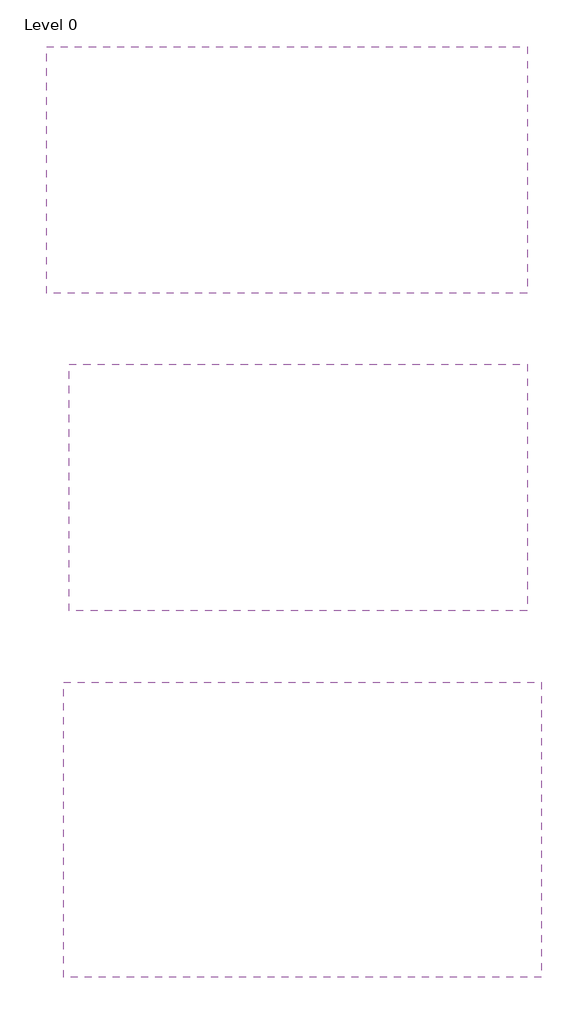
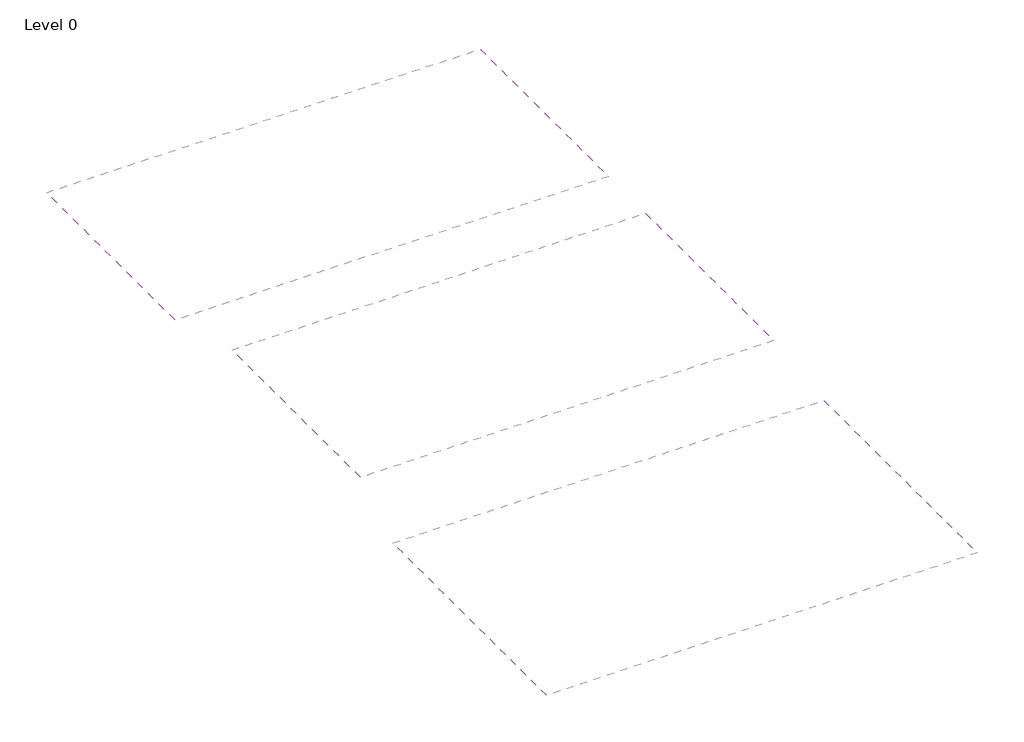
# One storey: 3 coverings.
"""IFC4 building model written with IfcOpenShell, lengths in millimetres."""

from ifc_helpers import new_model, si_unit, frame, origin, place, context, project, spatial, polyline, outline, extrude, element, save

model = new_model("IFC4")

# Units and contexts
model_context = context("Model", 3, world=origin())
ifc_project = project(units=[si_unit("LENGTHUNIT", "METRE", prefix="MILLI")], contexts=[model_context])

# Site, building, storey
site = spatial("IfcSite", under=ifc_project)
building = spatial("IfcBuilding", under=site)
storey = spatial("IfcBuildingStorey", under=building, Name="Level 0", Elevation=0.0)

# Coverings
placement = place(None, origin())
element("IfcCovering", 1, ObjectType="Stacked_4 & 6ft", at=placement, inside=storey, context=model_context, shape_type="SweptSolid", body=[
    extrude(outline(polyline([(10945.0332307, -152796.4188057), (10945.0332307, -161168.1827311), (-2606.5237964, -161168.1827311), (-2606.5237964, -152796.4188057), (10945.0332307, -152796.4188057)])), frame((0.0, 0.0, 2600.0), z_axis=(0.0, 0.0, 1.0), x_axis=(1.0, 0.0, 0.0)), (0.0, 0.0, 1.0), 83.1453125),
])
element("IfcCovering", 2, ObjectType="Stacked_4ft", at=placement, inside=storey, context=model_context, shape_type="SweptSolid", body=[
    extrude(outline(polyline([(10543.8485267, -134776.5925868), (10543.8485267, -141776.5925868), (-3093.2476042, -141776.5925868), (-3093.2476042, -134776.5925868), (10543.8485267, -134776.5925868)])), frame((0.0, 0.0, 3500.0), z_axis=(0.0, 0.0, 1.0), x_axis=(1.0, 0.0, 0.0)), (0.0, 0.0, 1.0), 83.1453125),
])
element("IfcCovering", 3, ObjectType="Stacked_6ft", at=placement, inside=storey, context=model_context, shape_type="SweptSolid", body=[
    extrude(outline(polyline([(10543.8485267, -143776.5925868), (10543.8485267, -150776.5925868), (-2456.1514733, -150776.5925868), (-2456.1514733, -143776.5925868), (10543.8485267, -143776.5925868)])), frame((0.0, 0.0, 3500.0), z_axis=(0.0, 0.0, 1.0), x_axis=(1.0, 0.0, 0.0)), (0.0, 0.0, 1.0), 83.1453125),
])

save(model, "model.ifc")
